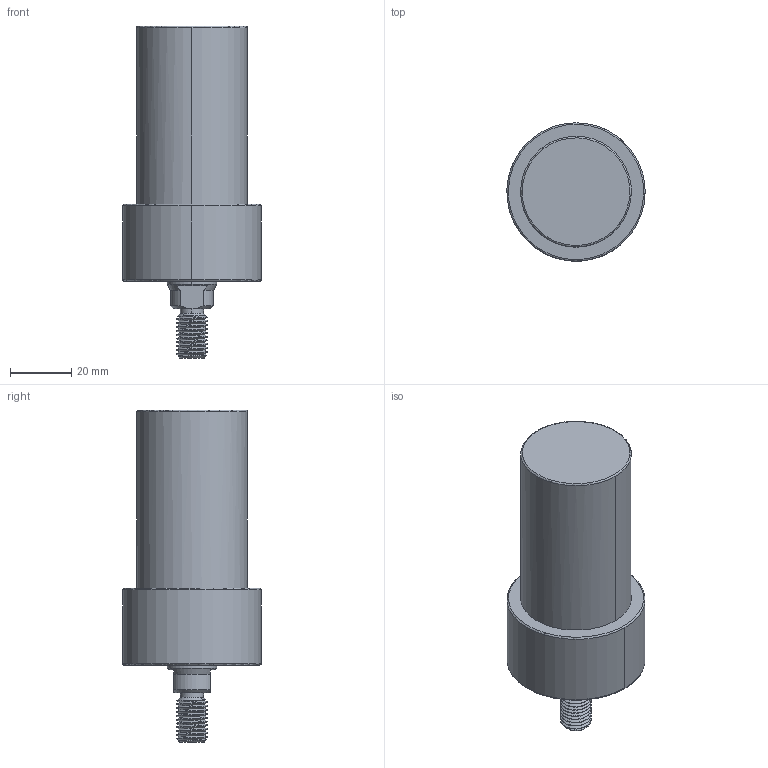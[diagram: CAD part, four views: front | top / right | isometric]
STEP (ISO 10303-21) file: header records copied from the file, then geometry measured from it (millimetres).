
FILE_DESCRIPTION((' '),'2;1');
FILE_NAME( 'TLLU-036GT-050.STEP.stp', '2025-10-24T16:37:08', (' '), ('--- Datakit www.datakit.com---'), ' Datakit CrossCadWare V2024.1 Dec 21 2023', 'Mastercam 2025', ' ');
FILE_SCHEMA(('AUTOMOTIVE_DESIGN { 1 0 10303 214 1 1 1 1 }'));
Length unit declared in the file: millimetre
Products named in the file (1): TLLU-036GT-050
Bounding box: 44.99 x 45 x 108 mm (x, y, z)
Volume: 100574 mm3; surface area: 14914.9 mm2
Topology: 1 solids, 1 shells, 88 faces, 294 edges, 209 vertices
Faces by surface type: cylinder 43, cone 26, plane 11, torus 6, bspline 2
Entity records: 8080 total; most frequent: CARTESIAN_POINT 5599, ORIENTED_EDGE 572, DIRECTION 466, EDGE_CURVE 286, VERTEX_POINT 209, AXIS2_PLACEMENT_3D 198, CIRCLE 111, B_SPLINE_CURVE_WITH_KNOTS 105
